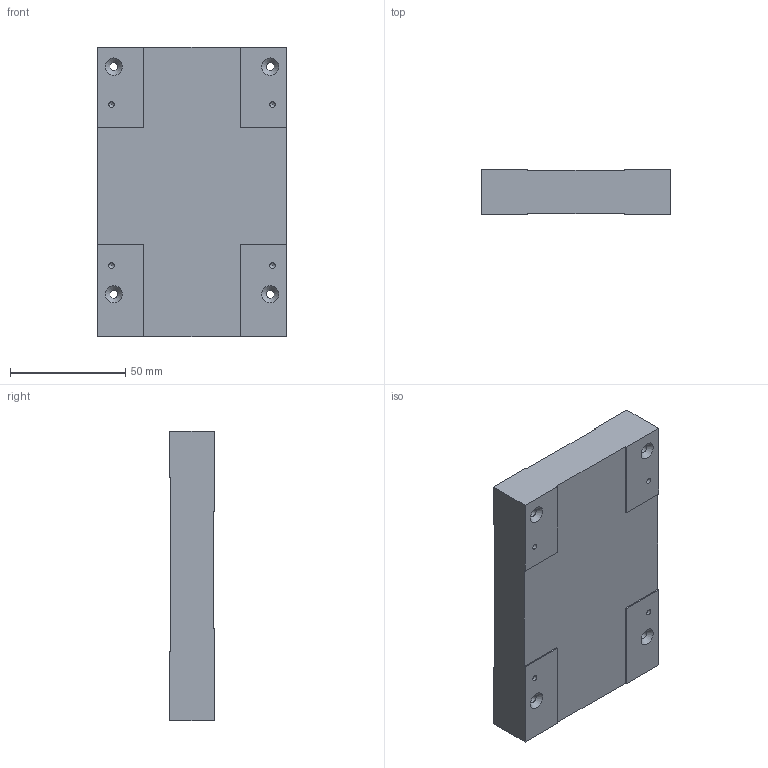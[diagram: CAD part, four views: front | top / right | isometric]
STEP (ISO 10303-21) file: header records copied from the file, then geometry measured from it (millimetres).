
FILE_DESCRIPTION(/* description */ (''),/* implementation_level */ '2;1');
FILE_NAME(/* name */ 'C:\Users\strothej\Documents\ActualDocuments\MicroscopeParts\TwoPhotonSystem\ScanningMechanics\v26\Drawings\Projection_Mount_Plate.stp',/* time_stamp */ '2017-05-15T14:31:49-07:00',/* author */ ('strothej'),/* organization */ (''),/* preprocessor_version */ 'ST-DEVELOPER v16.1',/* originating_system */ 'Autodesk Inventor 2016',/* authorisation */ '');
FILE_SCHEMA (('AUTOMOTIVE_DESIGN { 1 0 10303 214 3 1 1 }'));
Length unit declared in the file: millimetre
Products named in the file (1): Projection_Mount_Plate
Bounding box: 82 x 19.5 x 126 mm (x, y, z)
Volume: 192594.4 mm3; surface area: 29801.2 mm2
Topology: 1 solids, 1 shells, 46 faces, 128 edges, 84 vertices
Faces by surface type: plane 30, cone 8, cylinder 8
Full cylindrical faces by diameter (mm): 2.459 x4, 3.5 x4
Entity records: 1348 total; most frequent: CARTESIAN_POINT 227, DIRECTION 218, ORIENTED_EDGE 208, EDGE_CURVE 104, LINE 84, VECTOR 84, VERTEX_POINT 76, EDGE_LOOP 70
